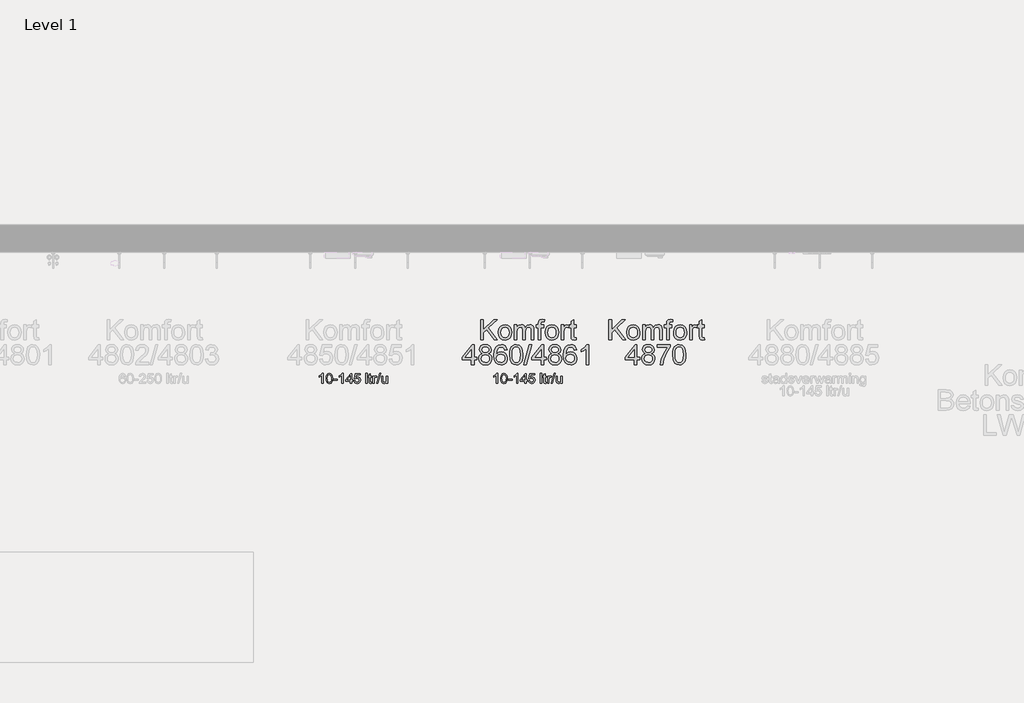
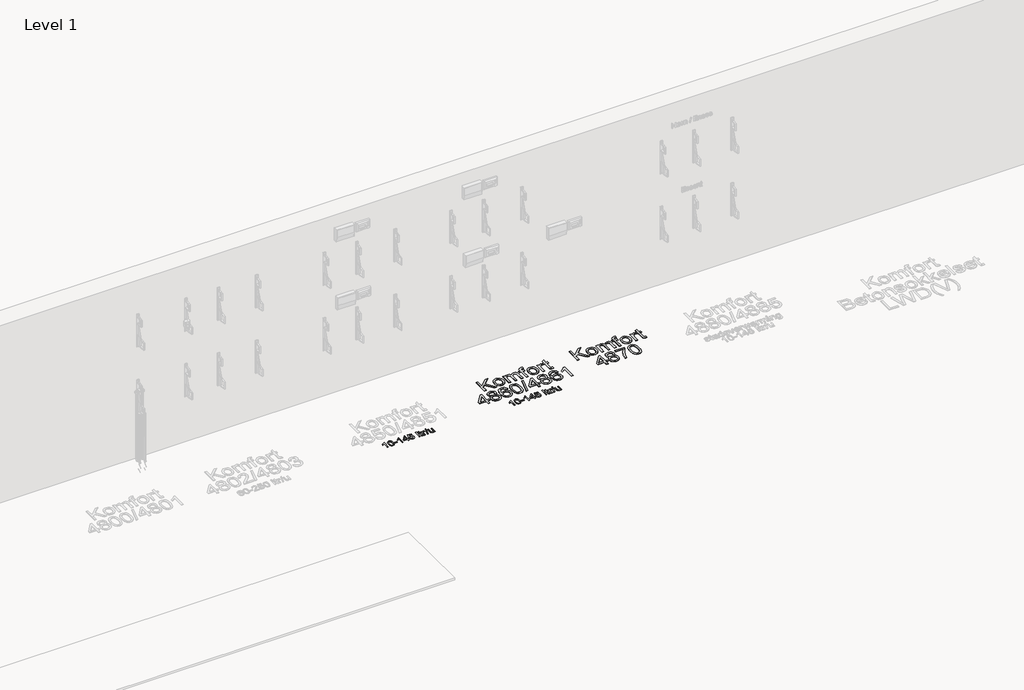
# One storey, part 24 of 34: 4 proxies.
"""IFC4 building model written with IfcOpenShell, lengths in millimetres."""

import ifcopenshell
import ifcopenshell.guid

model = None  # the IFC model being written
_history = None  # IfcOwnerHistory: only IFC2X3 demands one
_inside = {}  # id of a spatial element -> (the spatial element, [elements in it])
_under = {}  # id of a project, library or spatial element -> (it, [spatial elements below it])
_declared = {}  # id of a project -> (the project, [libraries it declares])
_typed = {}  # id of a type object -> (the type object, [elements of that type])
_made_of = {}  # id of a material, layer set ... -> (it, [elements and type objects made of it])


def new_model(schema):
    """Start an empty IFC model of exactly this schema.

    Asked for "IFC4X3", IfcOpenShell would pick the latest addendum, in which some entities
    have other attributes; the version numbers below select the first issue.
    IFC2X3 requires an IfcOwnerHistory on every rooted entity: one is made here for all.
    """
    global model, _history
    if schema == "IFC4X3":
        model = ifcopenshell.file(schema_version=(4, 3, 0, 0))
    else:
        model = ifcopenshell.file(schema=schema)
    _inside.clear()
    _under.clear()
    _declared.clear()
    _typed.clear()
    _made_of.clear()
    _history = None
    if model.schema == "IFC2X3":
        org = make("IfcOrganization", Name="unknown")
        user = make(
            "IfcPersonAndOrganization",
            ThePerson=make("IfcPerson", FamilyName="unknown"),
            TheOrganization=org,
        )
        app = make(
            "IfcApplication",
            ApplicationDeveloper=org,
            Version="unknown",
            ApplicationFullName="unknown",
            ApplicationIdentifier="unknown",
        )
        _history = make(
            "IfcOwnerHistory",
            OwningUser=user,
            OwningApplication=app,
            ChangeAction="ADDED",
            CreationDate=0,
        )
    return model


def make(cls, **values):
    """One entity of the class cls with the attributes given. An attribute that is None is left unset."""
    return model.create_entity(
        cls, **{name: value for name, value in values.items() if value is not None}
    )


def rooted(cls, **values):
    """An entity with a GlobalId (a new one), such as an element, a storey or a relation."""
    return make(cls, GlobalId=ifcopenshell.guid.new(), OwnerHistory=_history, **values)


def si_unit(unit_type, name, prefix=None):
    """IfcSIUnit, for example si_unit("LENGTHUNIT", "METRE", prefix="MILLI")."""
    return make("IfcSIUnit", UnitType=unit_type, Prefix=prefix, Name=name)


def assignment(units):
    """IfcUnitAssignment: the units of a project."""
    return None if units is None else make("IfcUnitAssignment", Units=units)


def point(xyz):
    """IfcCartesianPoint."""
    return None if xyz is None else make("IfcCartesianPoint", Coordinates=xyz)


def direction(xyz):
    """IfcDirection."""
    return None if xyz is None else make("IfcDirection", DirectionRatios=xyz)


def frame(location, z_axis=None, x_axis=None):
    """IfcAxis2Placement3D, a coordinate frame: its origin and axes. An axis left out is left unset."""
    return make(
        "IfcAxis2Placement3D",
        Location=point(location),
        Axis=direction(z_axis),
        RefDirection=direction(x_axis),
    )


def origin():
    """The frame at (0, 0, 0) with its axes left unset."""
    return frame((0.0, 0.0, 0.0))


def origin_with_axes():
    """The frame at (0, 0, 0) with the z axis (0, 0, 1) and the x axis (1, 0, 0) written out."""
    return frame((0.0, 0.0, 0.0), z_axis=(0.0, 0.0, 1.0), x_axis=(1.0, 0.0, 0.0))


def place(relative_to, where):
    """IfcLocalPlacement: puts the frame where relative to a parent placement (None: the world)."""
    return make(
        "IfcLocalPlacement", PlacementRelTo=relative_to, RelativePlacement=where
    )


def context(
    kind, dimensions, precision=None, world=None, true_north=None, identifier=None
):
    """IfcGeometricRepresentationContext, for example the 3D "Model" context."""
    return make(
        "IfcGeometricRepresentationContext",
        ContextIdentifier=identifier,
        ContextType=kind,
        CoordinateSpaceDimension=dimensions,
        Precision=precision,
        WorldCoordinateSystem=world,
        TrueNorth=true_north,
    )


def project(units=None, contexts=None):
    """IfcProject with its units and contexts."""
    return rooted(
        "IfcProject",
        Name="project",
        RepresentationContexts=contexts,
        UnitsInContext=assignment(units),
    )


def spatial(cls, under=None, at=None, **own):
    """A site, building, storey or space (cls), placed at a placement, below another one or the project."""
    s = rooted(cls, ObjectPlacement=at, **own)
    if under is not None:
        _under.setdefault(under.id(), (under, []))[1].append(s)
    return s


def polyline(points):
    """IfcPolyline through the points."""
    return make("IfcPolyline", Points=[point(p) for p in points])


def outline(outer, holes=None, kind="AREA"):
    """IfcArbitraryClosedProfileDef: a profile drawn as a closed curve; with holes, ...WithVoids."""
    if holes is None:
        return make("IfcArbitraryClosedProfileDef", ProfileType=kind, OuterCurve=outer)
    return make(
        "IfcArbitraryProfileDefWithVoids",
        ProfileType=kind,
        OuterCurve=outer,
        InnerCurves=holes,
    )


def extrude(swept, where, along, depth):
    """IfcExtrudedAreaSolid: the profile swept, set in the frame where, extruded along a direction by depth."""
    return make(
        "IfcExtrudedAreaSolid",
        SweptArea=swept,
        Position=where,
        ExtrudedDirection=direction(along),
        Depth=depth,
    )


def shape(context_of_items, identifier, shape_type, items):
    """IfcShapeRepresentation: the items that make up one representation, for example the "Body"."""
    return make(
        "IfcShapeRepresentation",
        ContextOfItems=context_of_items,
        RepresentationIdentifier=identifier,
        RepresentationType=shape_type,
        Items=items,
    )


def made_of(thing, what):
    """Note that an element or type object is made of a material, layer set ...; save() writes the relation."""
    if what is not None:
        _made_of.setdefault(what.id(), (what, []))[1].append(thing)
    return thing


def element(
    cls,
    number,
    at=None,
    inside=None,
    cuts=None,
    type_object=None,
    material=None,
    context=None,
    identifier="Body",
    shape_type=None,
    held_by="IfcProductDefinitionShape",
    body=None,
    shapes=None,
    **own,
):
    """One element of the class cls, such as IfcWall. Its Tag is "e" and its number.

    at: its placement. inside: the storey or other place that contains it. cuts: it is an
    opening in that element (IfcRelVoidsElement). A single representation is given by context,
    identifier, shape_type and body (its items); several are given by shapes. held_by: the class
    of the entity that holds the representations. save() writes the other relations.
    """
    e = rooted(cls, Tag="e%d" % number, ObjectPlacement=at, **own)
    if body is not None:
        shapes = [shape(context, identifier, shape_type, body)]
    if shapes is not None:
        e.Representation = make(held_by, Representations=shapes)
    if inside is not None:
        _inside.setdefault(inside.id(), (inside, []))[1].append(e)
    if cuts is not None:
        rooted(
            "IfcRelVoidsElement", RelatingBuildingElement=cuts, RelatedOpeningElement=e
        )
    if type_object is not None:
        _typed.setdefault(type_object.id(), (type_object, []))[1].append(e)
    return made_of(e, material)


def aggregate(whole, parts):
    """IfcRelAggregates: a whole, such as a stair, and the parts it consists of."""
    return rooted("IfcRelAggregates", RelatingObject=whole, RelatedObjects=parts)


def save(model, path):
    """Write the relations noted so far, then the file.

    IfcRelAggregates (storeys below a building ...), IfcRelContainedInSpatialStructure (elements
    in a storey), IfcRelDefinesByType, IfcRelAssociatesMaterial and IfcRelDeclares: one each for
    every whole, place, type object, material and project.
    """
    for whole, parts in _under.values():
        aggregate(whole, parts)
    for where, things in _inside.values():
        rooted(
            "IfcRelContainedInSpatialStructure",
            RelatedElements=things,
            RelatingStructure=where,
        )
    for kind, things in _typed.values():
        rooted("IfcRelDefinesByType", RelatedObjects=things, RelatingType=kind)
    for what, things in _made_of.values():
        rooted("IfcRelAssociatesMaterial", RelatedObjects=things, RelatingMaterial=what)
    for by, libraries in _declared.values():
        rooted("IfcRelDeclares", RelatingContext=by, RelatedDefinitions=libraries)
    model.write(path)


model = new_model("IFC4")

# Units and contexts
model_context = context("Model", 3, world=origin())
ifc_project = project(units=[si_unit("LENGTHUNIT", "METRE", prefix="MILLI")], contexts=[model_context])

# Site, building, storey
site = spatial("IfcSite", under=ifc_project)
building = spatial("IfcBuilding", under=site)
storey = spatial("IfcBuildingStorey", under=building, Name="Level 1", Elevation=0.0)

# Proxies
placement = place(None, origin())
element("IfcBuildingElementProxy", 1, Name="DN", ObjectType="DN", at=placement, inside=storey, context=model_context, shape_type="SweptSolid", body=[
    extrude(outline(polyline([(-7842.5642174, 6628.0579707), (-7851.7949866, 6628.0579707), (-7851.7949866, 6685.6060476), (-7860.538977, 6679.3770812), (-7870.2565251, 6674.7166245), (-7870.2565251, 6683.442586), (-7856.7258761, 6692.0784034), (-7848.5137366, 6701.9041245), (-7842.5642174, 6701.9041245), (-7842.5642174, 6628.0579707)])), origin_with_axes(), (0.0, 0.0, 1.0), 5.0),
    extrude(outline(polyline([(-7820.6411405, 6664.3860957), (-7817.9277991, 6685.6330909), (-7809.8689049, 6697.8836918), (-7796.4103712, 6701.9041245), (-7785.6291212, 6699.5243168), (-7778.1832078, 6692.6643409), (-7773.8562847, 6681.7388601), (-7772.179602, 6664.3860957), (-7774.8659001, 6643.2292447), (-7782.8977511, 6630.9516005), (-7796.4103712, 6626.9041245), (-7806.0017174, 6628.661937), (-7813.2853712, 6633.9353745), (-7818.8021982, 6646.4248577), (-7820.6411405, 6664.3860957)]), holes=[polyline([(-7811.4103712, 6664.4041245), (-7810.3286405, 6649.8841425), (-7807.0834482, 6641.4804466), (-7796.4103712, 6636.1348937), (-7785.7372943, 6641.4984755), (-7782.492102, 6649.9066786), (-7781.4103712, 6664.4041245), (-7785.5930636, 6687.0663841), (-7796.5185443, 6692.6733553), (-7806.9392174, 6687.7334514), (-7810.2925828, 6678.7370572), (-7811.4103712, 6664.4041245)])]), origin_with_axes(), (0.0, 0.0, 1.0), 5.0),
    extrude(outline(polyline([(-7766.4103712, 6649.9810476), (-7766.4103712, 6659.2118168), (-7737.5642174, 6659.2118168), (-7737.5642174, 6649.9810476), (-7766.4103712, 6649.9810476)])), origin_with_axes(), (0.0, 0.0, 1.0), 5.0),
    extrude(outline(polyline([(-7694.8719097, 6628.0579707), (-7704.1026789, 6628.0579707), (-7704.1026789, 6685.6060476), (-7712.8466693, 6679.3770812), (-7722.5642174, 6674.7166245), (-7722.5642174, 6683.442586), (-7709.0335684, 6692.0784034), (-7700.8214289, 6701.9041245), (-7694.8719097, 6701.9041245), (-7694.8719097, 6628.0579707)])), origin_with_axes(), (0.0, 0.0, 1.0), 5.0),
    extrude(outline(polyline([(-7642.9488328, 6628.0579707), (-7642.9488328, 6645.365663), (-7676.4103712, 6645.365663), (-7676.4103712, 6654.5964322), (-7640.6411405, 6700.7502784), (-7633.7180636, 6700.7502784), (-7633.7180636, 6654.5964322), (-7624.4872943, 6654.5964322), (-7624.4872943, 6645.365663), (-7633.7180636, 6645.365663), (-7633.7180636, 6628.0579707), (-7642.9488328, 6628.0579707)]), holes=[polyline([(-7642.9488328, 6654.5964322), (-7642.9488328, 6683.1180668), (-7665.0521982, 6654.5964322), (-7642.9488328, 6654.5964322)])]), origin_with_axes(), (0.0, 0.0, 1.0), 5.0),
    extrude(outline(polyline([(-7616.4103712, 6647.6733553), (-7607.179602, 6648.8272014), (-7602.5281597, 6639.3169851), (-7592.882727, 6636.1348937), (-7581.3082078, 6640.5609755), (-7577.179602, 6652.3067687), (-7581.0467895, 6663.2683072), (-7592.7384962, 6667.2887399), (-7600.8424626, 6665.6841726), (-7606.0257559, 6661.5195091), (-7615.2565251, 6662.6733553), (-7607.179602, 6700.7502784), (-7571.4103712, 6700.7502784), (-7571.4103712, 6691.5195091), (-7599.7156597, 6691.5195091), (-7603.663977, 6671.1829707), (-7590.1603712, 6676.5195091), (-7581.535822, 6674.8653625), (-7574.3761164, 6669.9029226), (-7569.5556537, 6662.3398216), (-7567.9488328, 6652.8836918), (-7573.7360924, 6635.756288), (-7582.0473905, 6629.1171654), (-7592.9187847, 6626.9041245), (-7601.9850407, 6628.3261498), (-7609.2078472, 6632.5922255), (-7614.1590191, 6639.2065584), (-7616.4103712, 6647.6733553)])), origin_with_axes(), (0.0, 0.0, 1.0), 5.0),
    extrude(outline(polyline([(-7528.7180636, 6628.0579707), (-7528.7180636, 6701.9041245), (-7519.4872943, 6701.9041245), (-7519.4872943, 6628.0579707), (-7528.7180636, 6628.0579707)])), origin_with_axes(), (0.0, 0.0, 1.0), 5.0),
    extrude(outline(polyline([(-7486.0257559, 6635.756288), (-7484.8719097, 6627.787538), (-7491.7769578, 6626.9041245), (-7499.5113328, 6628.4365764), (-7503.3695059, 6632.4570091), (-7504.4872943, 6642.9317687), (-7504.4872943, 6673.0579707), (-7511.4103712, 6673.0579707), (-7511.4103712, 6682.2887399), (-7504.4872943, 6682.2887399), (-7504.4872943, 6695.4678264), (-7495.2565251, 6700.8945091), (-7495.2565251, 6682.2887399), (-7486.0257559, 6682.2887399), (-7486.0257559, 6673.0579707), (-7495.2565251, 6673.0579707), (-7495.2565251, 6643.2022014), (-7494.7697462, 6638.442586), (-7493.1922222, 6636.7568889), (-7490.0461886, 6636.1348937), (-7486.0257559, 6635.756288)])), origin_with_axes(), (0.0, 0.0, 1.0), 5.0),
    extrude(outline(polyline([(-7476.7949866, 6628.0579707), (-7476.7949866, 6682.2887399), (-7468.7180636, 6682.2887399), (-7468.7180636, 6674.2659034), (-7462.9848905, 6681.6577303), (-7457.2156597, 6683.442586), (-7447.9488328, 6680.5940284), (-7451.0317655, 6672.318788), (-7457.5221501, 6674.2118168), (-7462.7415011, 6672.3909034), (-7466.0678232, 6667.3428264), (-7467.5642174, 6656.5615764), (-7467.5642174, 6628.0579707), (-7476.7949866, 6628.0579707)])), origin_with_axes(), (0.0, 0.0, 1.0), 5.0),
    extrude(outline(polyline([(-7449.1026789, 6628.0579707), (-7428.3334482, 6701.9041245), (-7420.0041212, 6701.9041245), (-7440.773352, 6628.0579707), (-7449.1026789, 6628.0579707)])), origin_with_axes(), (0.0, 0.0, 1.0), 5.0),
    extrude(outline(polyline([(-7378.7180636, 6628.0579707), (-7378.7180636, 6637.3788841), (-7385.9476309, 6629.5228144), (-7395.3767174, 6626.9041245), (-7404.0576068, 6628.7430668), (-7410.0431837, 6633.3584514), (-7412.7925828, 6640.1553264), (-7413.3334482, 6648.7370572), (-7413.3334482, 6682.2887399), (-7404.1026789, 6682.2887399), (-7404.1026789, 6653.0820091), (-7403.5437847, 6643.6709514), (-7399.8929434, 6638.1451101), (-7393.0149386, 6636.1348937), (-7385.3076068, 6638.1901822), (-7380.2144578, 6643.7881389), (-7378.7180636, 6654.0735957), (-7378.7180636, 6682.2887399), (-7369.4872943, 6682.2887399), (-7369.4872943, 6628.0579707), (-7378.7180636, 6628.0579707)])), origin_with_axes(), (0.0, 0.0, 1.0), 5.0),
])
element("IfcBuildingElementProxy", 2, Name="DN", ObjectType="DN", at=placement, inside=storey, context=model_context, shape_type="SweptSolid", body=[
    extrude(outline(polyline([(-6562.5642174, 6628.0579707), (-6571.7949866, 6628.0579707), (-6571.7949866, 6685.6060476), (-6580.538977, 6679.3770812), (-6590.2565251, 6674.7166245), (-6590.2565251, 6683.442586), (-6576.7258761, 6692.0784034), (-6568.5137366, 6701.9041245), (-6562.5642174, 6701.9041245), (-6562.5642174, 6628.0579707)])), origin_with_axes(), (0.0, 0.0, 1.0), 5.0),
    extrude(outline(polyline([(-6540.6411405, 6664.3860957), (-6537.9277991, 6685.6330909), (-6529.8689049, 6697.8836918), (-6516.4103712, 6701.9041245), (-6505.6291212, 6699.5243168), (-6498.1832078, 6692.6643409), (-6493.8562847, 6681.7388601), (-6492.179602, 6664.3860957), (-6494.8659001, 6643.2292447), (-6502.8977511, 6630.9516005), (-6516.4103712, 6626.9041245), (-6526.0017174, 6628.661937), (-6533.2853712, 6633.9353745), (-6538.8021982, 6646.4248577), (-6540.6411405, 6664.3860957)]), holes=[polyline([(-6531.4103712, 6664.4041245), (-6530.3286405, 6649.8841425), (-6527.0834482, 6641.4804466), (-6516.4103712, 6636.1348937), (-6505.7372943, 6641.4984755), (-6502.492102, 6649.9066786), (-6501.4103712, 6664.4041245), (-6505.5930636, 6687.0663841), (-6516.5185443, 6692.6733553), (-6526.9392174, 6687.7334514), (-6530.2925828, 6678.7370572), (-6531.4103712, 6664.4041245)])]), origin_with_axes(), (0.0, 0.0, 1.0), 5.0),
    extrude(outline(polyline([(-6486.4103712, 6649.9810476), (-6486.4103712, 6659.2118168), (-6457.5642174, 6659.2118168), (-6457.5642174, 6649.9810476), (-6486.4103712, 6649.9810476)])), origin_with_axes(), (0.0, 0.0, 1.0), 5.0),
    extrude(outline(polyline([(-6414.8719097, 6628.0579707), (-6424.1026789, 6628.0579707), (-6424.1026789, 6685.6060476), (-6432.8466693, 6679.3770812), (-6442.5642174, 6674.7166245), (-6442.5642174, 6683.442586), (-6429.0335684, 6692.0784034), (-6420.8214289, 6701.9041245), (-6414.8719097, 6701.9041245), (-6414.8719097, 6628.0579707)])), origin_with_axes(), (0.0, 0.0, 1.0), 5.0),
    extrude(outline(polyline([(-6362.9488328, 6628.0579707), (-6362.9488328, 6645.365663), (-6396.4103712, 6645.365663), (-6396.4103712, 6654.5964322), (-6360.6411405, 6700.7502784), (-6353.7180636, 6700.7502784), (-6353.7180636, 6654.5964322), (-6344.4872943, 6654.5964322), (-6344.4872943, 6645.365663), (-6353.7180636, 6645.365663), (-6353.7180636, 6628.0579707), (-6362.9488328, 6628.0579707)]), holes=[polyline([(-6362.9488328, 6654.5964322), (-6362.9488328, 6683.1180668), (-6385.0521982, 6654.5964322), (-6362.9488328, 6654.5964322)])]), origin_with_axes(), (0.0, 0.0, 1.0), 5.0),
    extrude(outline(polyline([(-6336.4103712, 6647.6733553), (-6327.179602, 6648.8272014), (-6322.5281597, 6639.3169851), (-6312.882727, 6636.1348937), (-6301.3082078, 6640.5609755), (-6297.179602, 6652.3067687), (-6301.0467895, 6663.2683072), (-6312.7384962, 6667.2887399), (-6320.8424626, 6665.6841726), (-6326.0257559, 6661.5195091), (-6335.2565251, 6662.6733553), (-6327.179602, 6700.7502784), (-6291.4103712, 6700.7502784), (-6291.4103712, 6691.5195091), (-6319.7156597, 6691.5195091), (-6323.663977, 6671.1829707), (-6310.1603712, 6676.5195091), (-6301.535822, 6674.8653625), (-6294.3761164, 6669.9029226), (-6289.5556537, 6662.3398216), (-6287.9488328, 6652.8836918), (-6293.7360924, 6635.756288), (-6302.0473905, 6629.1171654), (-6312.9187847, 6626.9041245), (-6321.9850407, 6628.3261498), (-6329.2078472, 6632.5922255), (-6334.1590191, 6639.2065584), (-6336.4103712, 6647.6733553)])), origin_with_axes(), (0.0, 0.0, 1.0), 5.0),
    extrude(outline(polyline([(-6248.7180636, 6628.0579707), (-6248.7180636, 6701.9041245), (-6239.4872943, 6701.9041245), (-6239.4872943, 6628.0579707), (-6248.7180636, 6628.0579707)])), origin_with_axes(), (0.0, 0.0, 1.0), 5.0),
    extrude(outline(polyline([(-6206.0257559, 6635.756288), (-6204.8719097, 6627.787538), (-6211.7769578, 6626.9041245), (-6219.5113328, 6628.4365764), (-6223.3695059, 6632.4570091), (-6224.4872943, 6642.9317687), (-6224.4872943, 6673.0579707), (-6231.4103712, 6673.0579707), (-6231.4103712, 6682.2887399), (-6224.4872943, 6682.2887399), (-6224.4872943, 6695.4678264), (-6215.2565251, 6700.8945091), (-6215.2565251, 6682.2887399), (-6206.0257559, 6682.2887399), (-6206.0257559, 6673.0579707), (-6215.2565251, 6673.0579707), (-6215.2565251, 6643.2022014), (-6214.7697462, 6638.442586), (-6213.1922222, 6636.7568889), (-6210.0461886, 6636.1348937), (-6206.0257559, 6635.756288)])), origin_with_axes(), (0.0, 0.0, 1.0), 5.0),
    extrude(outline(polyline([(-6196.7949866, 6628.0579707), (-6196.7949866, 6682.2887399), (-6188.7180636, 6682.2887399), (-6188.7180636, 6674.2659034), (-6182.9848905, 6681.6577303), (-6177.2156597, 6683.442586), (-6167.9488328, 6680.5940284), (-6171.0317655, 6672.318788), (-6177.5221501, 6674.2118168), (-6182.7415011, 6672.3909034), (-6186.0678232, 6667.3428264), (-6187.5642174, 6656.5615764), (-6187.5642174, 6628.0579707), (-6196.7949866, 6628.0579707)])), origin_with_axes(), (0.0, 0.0, 1.0), 5.0),
    extrude(outline(polyline([(-6169.1026789, 6628.0579707), (-6148.3334482, 6701.9041245), (-6140.0041212, 6701.9041245), (-6160.773352, 6628.0579707), (-6169.1026789, 6628.0579707)])), origin_with_axes(), (0.0, 0.0, 1.0), 5.0),
    extrude(outline(polyline([(-6098.7180636, 6628.0579707), (-6098.7180636, 6637.3788841), (-6105.9476309, 6629.5228144), (-6115.3767174, 6626.9041245), (-6124.0576068, 6628.7430668), (-6130.0431837, 6633.3584514), (-6132.7925828, 6640.1553264), (-6133.3334482, 6648.7370572), (-6133.3334482, 6682.2887399), (-6124.1026789, 6682.2887399), (-6124.1026789, 6653.0820091), (-6123.5437847, 6643.6709514), (-6119.8929434, 6638.1451101), (-6113.0149386, 6636.1348937), (-6105.3076068, 6638.1901822), (-6100.2144578, 6643.7881389), (-6098.7180636, 6654.0735957), (-6098.7180636, 6682.2887399), (-6089.4872943, 6682.2887399), (-6089.4872943, 6628.0579707), (-6098.7180636, 6628.0579707)])), origin_with_axes(), (0.0, 0.0, 1.0), 5.0),
])
element("IfcBuildingElementProxy", 3, Name="type", ObjectType="type", at=placement, inside=storey, context=model_context, shape_type="SweptSolid", body=[
    extrude(outline(polyline([(-6686.6026789, 6948.0579707), (-6686.6026789, 7095.7502784), (-6668.1411405, 7095.7502784), (-6668.1411405, 7023.4546053), (-6592.4199866, 7095.7502784), (-6566.6026789, 7095.7502784), (-6630.1723905, 7035.0291245), (-6564.2949866, 6948.0579707), (-6586.867102, 6948.0579707), (-6643.2613328, 7022.553163), (-6668.1411405, 6998.8272014), (-6668.1411405, 6948.0579707), (-6686.6026789, 6948.0579707)])), origin_with_axes(), (0.0, 0.0, 1.0), 5.0),
    extrude(outline(polyline([(-6557.3719097, 7002.2887399), (-6553.3785203, 7028.4395812), (-6541.398352, 7046.8199899), (-6526.5966693, 7055.8253985), (-6508.8743136, 7058.8272014), (-6489.4797823, 7055.1718529), (-6473.9884962, 7044.2058072), (-6463.8337487, 7026.794449), (-6460.4488328, 7003.803163), (-6461.945227, 6985.1523216), (-6466.4344097, 6970.9546053), (-6473.7856717, 6960.3220933), (-6483.8683039, 6952.3668649), (-6495.843965, 6947.404425), (-6508.8743136, 6945.7502784), (-6528.5032198, 6949.3921053), (-6543.976477, 6960.317586), (-6554.0230515, 6978.0940284), (-6557.3719097, 7002.2887399)]), holes=[polyline([(-6538.9103712, 7002.3247976), (-6536.773953, 6985.6165644), (-6530.3646982, 6973.7130187), (-6520.7192655, 6966.5871173), (-6508.8743136, 6964.2118168), (-6497.0834482, 6966.6006389), (-6487.4560443, 6973.7671053), (-6481.0467895, 6985.8284034), (-6478.9103712, 7002.9017207), (-6481.0603112, 7019.123175), (-6487.5101309, 7030.864461), (-6497.1510563, 7037.9903625), (-6508.8743136, 7040.365663), (-6520.7192655, 7037.9993769), (-6530.3646982, 7030.9005187), (-6536.773953, 7019.0240163), (-6538.9103712, 7002.3247976)])]), origin_with_axes(), (0.0, 0.0, 1.0), 5.0),
    extrude(outline(polyline([(-6439.679602, 6948.0579707), (-6439.679602, 7056.5195091), (-6421.2180636, 7056.5195091), (-6421.2180636, 7038.6709514), (-6408.5257559, 7053.2923457), (-6390.460852, 7058.8272014), (-6380.1934241, 7057.4164442), (-6371.9632559, 7053.1841726), (-6361.7949866, 7037.3728745), (-6347.3899386, 7053.4636197), (-6329.1988328, 7058.8272014), (-6315.3211285, 7056.5961317), (-6305.0582078, 7049.9029226), (-6298.7165612, 7038.5672856), (-6296.6026789, 7022.4089322), (-6296.6026789, 6948.0579707), (-6315.0642174, 6948.0579707), (-6315.0642174, 7014.4762399), (-6316.7769578, 7029.8909034), (-6322.9788809, 7037.4810476), (-6333.5257559, 7040.365663), (-6343.5272583, 7038.5177062), (-6351.6808039, 7032.973836), (-6357.1029794, 7023.3554466), (-6358.9103712, 7009.2839322), (-6358.9103712, 6948.0579707), (-6377.3719097, 6948.0579707), (-6377.3719097, 7016.5315284), (-6381.6447462, 7034.4161437), (-6387.2832679, 7038.8782832), (-6395.6531597, 7040.365663), (-6409.3190251, 7036.3993168), (-6418.4055636, 7024.7887399), (-6421.2180636, 7002.7574899), (-6421.2180636, 6948.0579707), (-6439.679602, 6948.0579707)])), origin_with_axes(), (0.0, 0.0, 1.0), 5.0),
    extrude(outline(polyline([(-6264.2949866, 6948.0579707), (-6264.2949866, 7038.0579707), (-6280.4488328, 7038.0579707), (-6280.4488328, 7056.5195091), (-6264.2949866, 7056.5195091), (-6264.2949866, 7067.4449899), (-6262.3478712, 7082.8416245), (-6252.9007559, 7093.8392207), (-6234.2949866, 7098.0579707), (-6217.4560443, 7096.0387399), (-6220.1603712, 7078.7310476), (-6230.7973905, 7079.5964322), (-6242.4259962, 7076.5315284), (-6245.8334482, 7065.1012399), (-6245.8334482, 7056.5195091), (-6225.0642174, 7056.5195091), (-6225.0642174, 7038.0579707), (-6245.8334482, 7038.0579707), (-6245.8334482, 6948.0579707), (-6264.2949866, 6948.0579707)])), origin_with_axes(), (0.0, 0.0, 1.0), 5.0),
    extrude(outline(polyline([(-6213.5257559, 7002.2887399), (-6209.5323664, 7028.4395812), (-6197.5521982, 7046.8199899), (-6182.7505155, 7055.8253985), (-6165.0281597, 7058.8272014), (-6145.6336285, 7055.1718529), (-6130.1423424, 7044.2058072), (-6119.9875948, 7026.794449), (-6116.6026789, 7003.803163), (-6118.0990732, 6985.1523216), (-6122.5882559, 6970.9546053), (-6129.9395179, 6960.3220933), (-6140.0221501, 6952.3668649), (-6151.9978112, 6947.404425), (-6165.0281597, 6945.7502784), (-6184.657066, 6949.3921053), (-6200.1303232, 6960.317586), (-6210.1768977, 6978.0940284), (-6213.5257559, 7002.2887399)]), holes=[polyline([(-6195.0642174, 7002.3247976), (-6192.9277991, 6985.6165644), (-6186.5185443, 6973.7130187), (-6176.8731116, 6966.5871173), (-6165.0281597, 6964.2118168), (-6153.2372943, 6966.6006389), (-6143.6098905, 6973.7671053), (-6137.2006357, 6985.8284034), (-6135.0642174, 7002.9017207), (-6137.2141573, 7019.123175), (-6143.663977, 7030.864461), (-6153.3049025, 7037.9903625), (-6165.0281597, 7040.365663), (-6176.8731116, 7037.9993769), (-6186.5185443, 7030.9005187), (-6192.9277991, 7019.0240163), (-6195.0642174, 7002.3247976)])]), origin_with_axes(), (0.0, 0.0, 1.0), 5.0),
    extrude(outline(polyline([(-6095.8334482, 6948.0579707), (-6095.8334482, 7056.5195091), (-6079.679602, 7056.5195091), (-6079.679602, 7040.473836), (-6068.2132559, 7055.2574899), (-6056.6747943, 7058.8272014), (-6038.1411405, 7053.130086), (-6044.3070059, 7036.5796053), (-6057.2877751, 7040.365663), (-6067.726477, 7036.723836), (-6074.3791212, 7026.6276822), (-6077.3719097, 7005.0651822), (-6077.3719097, 6948.0579707), (-6095.8334482, 6948.0579707)])), origin_with_axes(), (0.0, 0.0, 1.0), 5.0),
    extrude(outline(polyline([(-5987.3719097, 6963.4546053), (-5985.0642174, 6947.5171053), (-5998.8743136, 6945.7502784), (-6014.3430636, 6948.8151822), (-6022.0594097, 6956.8560476), (-6024.2949866, 6977.8055668), (-6024.2949866, 7038.0579707), (-6038.1411405, 7038.0579707), (-6038.1411405, 7056.5195091), (-6024.2949866, 7056.5195091), (-6024.2949866, 7082.8776822), (-6005.8334482, 7093.7310476), (-6005.8334482, 7056.5195091), (-5987.3719097, 7056.5195091), (-5987.3719097, 7038.0579707), (-6005.8334482, 7038.0579707), (-6005.8334482, 6978.3464322), (-6004.8598905, 6968.8272014), (-6001.7048424, 6965.4558072), (-5995.4127751, 6964.2118168), (-5987.3719097, 6963.4546053)])), origin_with_axes(), (0.0, 0.0, 1.0), 5.0),
    extrude(outline(polyline([(-6754.679602, 6765.7502784), (-6754.679602, 6800.365663), (-6821.6026789, 6800.365663), (-6821.6026789, 6818.8272014), (-6750.0642174, 6911.1348937), (-6736.2180636, 6911.1348937), (-6736.2180636, 6818.8272014), (-6717.7565251, 6818.8272014), (-6717.7565251, 6800.365663), (-6736.2180636, 6800.365663), (-6736.2180636, 6765.7502784), (-6754.679602, 6765.7502784)]), holes=[polyline([(-6754.679602, 6818.8272014), (-6754.679602, 6875.8704707), (-6798.8863328, 6818.8272014), (-6754.679602, 6818.8272014)])]), origin_with_axes(), (0.0, 0.0, 1.0), 5.0),
    extrude(outline(polyline([(-6674.7036405, 6847.0964322), (-6691.5245539, 6858.5627784), (-6696.9872943, 6876.411336), (-6694.0125347, 6890.8434274), (-6685.0882559, 6902.7695091), (-6671.2150587, 6910.7743168), (-6653.3935443, 6913.442586), (-6635.4638568, 6910.7112159), (-6621.4103712, 6902.5171053), (-6612.3238328, 6890.4017207), (-6609.2949866, 6875.9065284), (-6614.6856116, 6858.5086918), (-6631.0377751, 6847.0964322), (-6619.6750948, 6841.2415644), (-6611.4043616, 6832.6192687), (-6606.3607919, 6821.6442086), (-6604.679602, 6808.7310476), (-6608.0149386, 6791.0808072), (-6618.0209482, 6776.4954707), (-6633.4716693, 6766.7058072), (-6653.1411405, 6763.442586), (-6672.8106116, 6766.7193288), (-6688.2613328, 6776.5495572), (-6698.2673424, 6791.2746173), (-6701.6026789, 6809.2358553), (-6699.8538809, 6822.6493168), (-6694.6074866, 6833.6829707), (-6686.1339289, 6841.958211), (-6674.7036405, 6847.0964322)]), holes=[polyline([(-6678.5257559, 6875.8704707), (-6676.8896381, 6867.8115764), (-6671.9812847, 6861.3752784), (-6663.9449265, 6857.1565284), (-6652.9247943, 6855.7502784), (-6642.1615732, 6857.1475139), (-6634.2469097, 6861.3392207), (-6629.3791212, 6867.5591726), (-6627.7565251, 6875.0411437), (-6629.4332078, 6882.8070692), (-6634.4632559, 6889.2298457), (-6642.4860924, 6893.5432471), (-6653.1411405, 6894.9810476), (-6663.8637967, 6893.5747976), (-6671.8731116, 6889.3560476), (-6676.8625948, 6883.1721534), (-6678.5257559, 6875.8704707)]), polyline([(-6683.1411405, 6809.8848937), (-6680.0582078, 6795.9846534), (-6669.1507559, 6785.5820091), (-6652.9969097, 6781.9041245), (-6640.4308039, 6783.8377183), (-6631.0017174, 6789.6384995), (-6625.1062847, 6798.4230548), (-6623.1411405, 6809.3079707), (-6625.1693857, 6820.3776822), (-6631.2541212, 6829.3560476), (-6640.8995539, 6835.3055668), (-6653.6098905, 6837.2887399), (-6666.000215, 6835.3326101), (-6675.3346501, 6829.4642207), (-6681.1895179, 6820.6571293), (-6683.1411405, 6809.8848937)])]), origin_with_axes(), (0.0, 0.0, 1.0), 5.0),
    extrude(outline(polyline([(-6493.9103712, 6874.2118168), (-6512.3719097, 6871.9041245), (-6519.367102, 6887.3007591), (-6527.7415011, 6893.0609755), (-6537.8646982, 6894.9810476), (-6554.523352, 6890.5098937), (-6567.1255155, 6873.725038), (-6570.9521381, 6859.9735356), (-6572.3719097, 6840.8223937), (-6556.0918616, 6855.551961), (-6535.9175828, 6860.365663), (-6518.8622943, 6857.0753985), (-6504.5473905, 6847.2046053), (-6494.8388568, 6832.1234755), (-6491.6026789, 6813.2022014), (-6493.1261164, 6799.98255), (-6497.6964289, 6787.7274418), (-6504.9350107, 6777.333812), (-6514.4632559, 6769.6985957), (-6525.8484722, 6765.0065885), (-6538.6579674, 6763.442586), (-6559.6029794, 6767.5892207), (-6576.2841693, 6780.0291245), (-6587.1961285, 6801.9882591), (-6590.8334482, 6834.692586), (-6586.7949866, 6871.4624178), (-6574.679602, 6896.6036437), (-6558.1381357, 6909.2328505), (-6536.710852, 6913.442586), (-6520.5119337, 6910.8374178), (-6507.5401789, 6903.021913), (-6498.4536405, 6890.6090524), (-6493.9103712, 6874.2118168)]), holes=[polyline([(-6572.3719097, 6813.490663), (-6568.0990732, 6797.4990764), (-6556.7409001, 6785.8884995), (-6540.1002751, 6781.9041245), (-6527.9172823, 6783.9684274), (-6518.3394578, 6790.161336), (-6512.1330275, 6799.896913), (-6510.0642174, 6812.5892207), (-6512.1059842, 6824.7722135), (-6518.2312847, 6834.0615764), (-6527.9713688, 6839.9434875), (-6540.8574866, 6841.9041245), (-6553.0224506, 6839.9434875), (-6563.195227, 6834.0615764), (-6570.077739, 6824.997574), (-6572.3719097, 6813.490663)])]), origin_with_axes(), (0.0, 0.0, 1.0), 5.0),
    extrude(outline(polyline([(-6475.4488328, 6838.4065284), (-6474.0921621, 6862.0468529), (-6470.0221501, 6880.9005187), (-6463.2793616, 6895.2559875), (-6453.9043616, 6905.4017207), (-6441.8295419, 6911.4323697), (-6426.9872943, 6913.442586), (-6405.4247943, 6908.6829707), (-6390.5329674, 6894.9630187), (-6381.8791212, 6873.1120572), (-6378.5257559, 6838.4065284), (-6379.8689049, 6814.9014202), (-6383.898352, 6796.0928264), (-6390.6005756, 6781.723836), (-6399.9620539, 6771.537538), (-6412.0639169, 6765.466324), (-6426.9872943, 6763.442586), (-6446.1699866, 6766.958211), (-6460.7372943, 6777.505086), (-6471.7709482, 6802.4840524), (-6475.4488328, 6838.4065284)]), holes=[polyline([(-6456.9872943, 6838.442586), (-6454.8238328, 6809.4026221), (-6448.3334482, 6792.5952303), (-6438.6699866, 6784.576901), (-6426.9872943, 6781.9041245), (-6415.304602, 6784.5859154), (-6405.6411405, 6792.631288), (-6399.1507559, 6809.4476942), (-6396.9872943, 6838.442586), (-6399.0786405, 6866.8290043), (-6405.3526789, 6883.7671053), (-6414.9981116, 6892.177562), (-6427.2036405, 6894.9810476), (-6438.7601309, 6892.5110957), (-6448.0449866, 6885.1012399), (-6454.7517174, 6867.1084514), (-6456.9872943, 6838.442586)])]), origin_with_axes(), (0.0, 0.0, 1.0), 5.0),
    extrude(outline(polyline([(-6371.6026789, 6765.7502784), (-6330.0642174, 6913.442586), (-6313.4055636, 6913.442586), (-6354.9440251, 6765.7502784), (-6371.6026789, 6765.7502784)])), origin_with_axes(), (0.0, 0.0, 1.0), 5.0),
    extrude(outline(polyline([(-6244.679602, 6765.7502784), (-6244.679602, 6800.365663), (-6311.6026789, 6800.365663), (-6311.6026789, 6818.8272014), (-6240.0642174, 6911.1348937), (-6226.2180636, 6911.1348937), (-6226.2180636, 6818.8272014), (-6207.7565251, 6818.8272014), (-6207.7565251, 6800.365663), (-6226.2180636, 6800.365663), (-6226.2180636, 6765.7502784), (-6244.679602, 6765.7502784)]), holes=[polyline([(-6244.679602, 6818.8272014), (-6244.679602, 6875.8704707), (-6288.8863328, 6818.8272014), (-6244.679602, 6818.8272014)])]), origin_with_axes(), (0.0, 0.0, 1.0), 5.0),
    extrude(outline(polyline([(-6164.7036405, 6847.0964322), (-6181.5245539, 6858.5627784), (-6186.9872943, 6876.411336), (-6184.0125347, 6890.8434274), (-6175.0882559, 6902.7695091), (-6161.2150587, 6910.7743168), (-6143.3935443, 6913.442586), (-6125.4638568, 6910.7112159), (-6111.4103712, 6902.5171053), (-6102.3238328, 6890.4017207), (-6099.2949866, 6875.9065284), (-6104.6856116, 6858.5086918), (-6121.0377751, 6847.0964322), (-6109.6750948, 6841.2415644), (-6101.4043616, 6832.6192687), (-6096.3607919, 6821.6442086), (-6094.679602, 6808.7310476), (-6098.0149386, 6791.0808072), (-6108.0209482, 6776.4954707), (-6123.4716693, 6766.7058072), (-6143.1411405, 6763.442586), (-6162.8106116, 6766.7193288), (-6178.2613328, 6776.5495572), (-6188.2673424, 6791.2746173), (-6191.6026789, 6809.2358553), (-6189.8538809, 6822.6493168), (-6184.6074866, 6833.6829707), (-6176.1339289, 6841.958211), (-6164.7036405, 6847.0964322)]), holes=[polyline([(-6168.5257559, 6875.8704707), (-6166.8896381, 6867.8115764), (-6161.9812847, 6861.3752784), (-6153.9449265, 6857.1565284), (-6142.9247943, 6855.7502784), (-6132.1615732, 6857.1475139), (-6124.2469097, 6861.3392207), (-6119.3791212, 6867.5591726), (-6117.7565251, 6875.0411437), (-6119.4332078, 6882.8070692), (-6124.4632559, 6889.2298457), (-6132.4860924, 6893.5432471), (-6143.1411405, 6894.9810476), (-6153.8637967, 6893.5747976), (-6161.8731116, 6889.3560476), (-6166.8625948, 6883.1721534), (-6168.5257559, 6875.8704707)]), polyline([(-6173.1411405, 6809.8848937), (-6170.0582078, 6795.9846534), (-6159.1507559, 6785.5820091), (-6142.9969097, 6781.9041245), (-6130.4308039, 6783.8377183), (-6121.0017174, 6789.6384995), (-6115.1062847, 6798.4230548), (-6113.1411405, 6809.3079707), (-6115.1693857, 6820.3776822), (-6121.2541212, 6829.3560476), (-6130.8995539, 6835.3055668), (-6143.6098905, 6837.2887399), (-6156.000215, 6835.3326101), (-6165.3346501, 6829.4642207), (-6171.1895179, 6820.6571293), (-6173.1411405, 6809.8848937)])]), origin_with_axes(), (0.0, 0.0, 1.0), 5.0),
    extrude(outline(polyline([(-5983.9103712, 6874.2118168), (-6002.3719097, 6871.9041245), (-6009.367102, 6887.3007591), (-6017.7415011, 6893.0609755), (-6027.8646982, 6894.9810476), (-6044.523352, 6890.5098937), (-6057.1255155, 6873.725038), (-6060.9521381, 6859.9735356), (-6062.3719097, 6840.8223937), (-6046.0918616, 6855.551961), (-6025.9175828, 6860.365663), (-6008.8622943, 6857.0753985), (-5994.5473905, 6847.2046053), (-5984.8388568, 6832.1234755), (-5981.6026789, 6813.2022014), (-5983.1261164, 6799.98255), (-5987.6964289, 6787.7274418), (-5994.9350107, 6777.333812), (-6004.4632559, 6769.6985957), (-6015.8484722, 6765.0065885), (-6028.6579674, 6763.442586), (-6049.6029794, 6767.5892207), (-6066.2841693, 6780.0291245), (-6077.1961285, 6801.9882591), (-6080.8334482, 6834.692586), (-6076.7949866, 6871.4624178), (-6064.679602, 6896.6036437), (-6048.1381357, 6909.2328505), (-6026.710852, 6913.442586), (-6010.5119337, 6910.8374178), (-5997.5401789, 6903.021913), (-5988.4536405, 6890.6090524), (-5983.9103712, 6874.2118168)]), holes=[polyline([(-6062.3719097, 6813.490663), (-6058.0990732, 6797.4990764), (-6046.7409001, 6785.8884995), (-6030.1002751, 6781.9041245), (-6017.9172823, 6783.9684274), (-6008.3394578, 6790.161336), (-6002.1330275, 6799.896913), (-6000.0642174, 6812.5892207), (-6002.1059842, 6824.7722135), (-6008.2312847, 6834.0615764), (-6017.9713688, 6839.9434875), (-6030.8574866, 6841.9041245), (-6043.0224506, 6839.9434875), (-6053.195227, 6834.0615764), (-6060.077739, 6824.997574), (-6062.3719097, 6813.490663)])]), origin_with_axes(), (0.0, 0.0, 1.0), 5.0),
    extrude(outline(polyline([(-5896.2180636, 6765.7502784), (-5914.679602, 6765.7502784), (-5914.679602, 6880.8464322), (-5932.1675828, 6868.3884995), (-5951.6026789, 6859.067586), (-5951.6026789, 6876.5195091), (-5924.5413809, 6893.7911437), (-5908.117102, 6913.442586), (-5896.2180636, 6913.442586), (-5896.2180636, 6765.7502784)])), origin_with_axes(), (0.0, 0.0, 1.0), 5.0),
])
element("IfcBuildingElementProxy", 4, Name="type", ObjectType="type", at=placement, inside=storey, context=model_context, shape_type="SweptSolid", body=[
    extrude(outline(polyline([(-5746.6026789, 6948.0579707), (-5746.6026789, 7095.7502784), (-5728.1411405, 7095.7502784), (-5728.1411405, 7023.4546053), (-5652.4199866, 7095.7502784), (-5626.6026789, 7095.7502784), (-5690.1723905, 7035.0291245), (-5624.2949866, 6948.0579707), (-5646.867102, 6948.0579707), (-5703.2613328, 7022.553163), (-5728.1411405, 6998.8272014), (-5728.1411405, 6948.0579707), (-5746.6026789, 6948.0579707)])), origin_with_axes(), (0.0, 0.0, 1.0), 5.0),
    extrude(outline(polyline([(-5617.3719097, 7002.2887399), (-5613.3785203, 7028.4395812), (-5601.398352, 7046.8199899), (-5586.5966693, 7055.8253985), (-5568.8743136, 7058.8272014), (-5549.4797823, 7055.1718529), (-5533.9884962, 7044.2058072), (-5523.8337487, 7026.794449), (-5520.4488328, 7003.803163), (-5521.945227, 6985.1523216), (-5526.4344097, 6970.9546053), (-5533.7856717, 6960.3220933), (-5543.8683039, 6952.3668649), (-5555.843965, 6947.404425), (-5568.8743136, 6945.7502784), (-5588.5032198, 6949.3921053), (-5603.976477, 6960.317586), (-5614.0230515, 6978.0940284), (-5617.3719097, 7002.2887399)]), holes=[polyline([(-5598.9103712, 7002.3247976), (-5596.773953, 6985.6165644), (-5590.3646982, 6973.7130187), (-5580.7192655, 6966.5871173), (-5568.8743136, 6964.2118168), (-5557.0834482, 6966.6006389), (-5547.4560443, 6973.7671053), (-5541.0467895, 6985.8284034), (-5538.9103712, 7002.9017207), (-5541.0603112, 7019.123175), (-5547.5101309, 7030.864461), (-5557.1510563, 7037.9903625), (-5568.8743136, 7040.365663), (-5580.7192655, 7037.9993769), (-5590.3646982, 7030.9005187), (-5596.773953, 7019.0240163), (-5598.9103712, 7002.3247976)])]), origin_with_axes(), (0.0, 0.0, 1.0), 5.0),
    extrude(outline(polyline([(-5499.679602, 6948.0579707), (-5499.679602, 7056.5195091), (-5481.2180636, 7056.5195091), (-5481.2180636, 7038.6709514), (-5468.5257559, 7053.2923457), (-5450.460852, 7058.8272014), (-5440.1934241, 7057.4164442), (-5431.9632559, 7053.1841726), (-5421.7949866, 7037.3728745), (-5407.3899386, 7053.4636197), (-5389.1988328, 7058.8272014), (-5375.3211285, 7056.5961317), (-5365.0582078, 7049.9029226), (-5358.7165612, 7038.5672856), (-5356.6026789, 7022.4089322), (-5356.6026789, 6948.0579707), (-5375.0642174, 6948.0579707), (-5375.0642174, 7014.4762399), (-5376.7769578, 7029.8909034), (-5382.9788809, 7037.4810476), (-5393.5257559, 7040.365663), (-5403.5272583, 7038.5177062), (-5411.6808039, 7032.973836), (-5417.1029794, 7023.3554466), (-5418.9103712, 7009.2839322), (-5418.9103712, 6948.0579707), (-5437.3719097, 6948.0579707), (-5437.3719097, 7016.5315284), (-5441.6447462, 7034.4161437), (-5447.2832679, 7038.8782832), (-5455.6531597, 7040.365663), (-5469.3190251, 7036.3993168), (-5478.4055636, 7024.7887399), (-5481.2180636, 7002.7574899), (-5481.2180636, 6948.0579707), (-5499.679602, 6948.0579707)])), origin_with_axes(), (0.0, 0.0, 1.0), 5.0),
    extrude(outline(polyline([(-5324.2949866, 6948.0579707), (-5324.2949866, 7038.0579707), (-5340.4488328, 7038.0579707), (-5340.4488328, 7056.5195091), (-5324.2949866, 7056.5195091), (-5324.2949866, 7067.4449899), (-5322.3478712, 7082.8416245), (-5312.9007559, 7093.8392207), (-5294.2949866, 7098.0579707), (-5277.4560443, 7096.0387399), (-5280.1603712, 7078.7310476), (-5290.7973905, 7079.5964322), (-5302.4259962, 7076.5315284), (-5305.8334482, 7065.1012399), (-5305.8334482, 7056.5195091), (-5285.0642174, 7056.5195091), (-5285.0642174, 7038.0579707), (-5305.8334482, 7038.0579707), (-5305.8334482, 6948.0579707), (-5324.2949866, 6948.0579707)])), origin_with_axes(), (0.0, 0.0, 1.0), 5.0),
    extrude(outline(polyline([(-5273.5257559, 7002.2887399), (-5269.5323664, 7028.4395812), (-5257.5521982, 7046.8199899), (-5242.7505155, 7055.8253985), (-5225.0281597, 7058.8272014), (-5205.6336285, 7055.1718529), (-5190.1423424, 7044.2058072), (-5179.9875948, 7026.794449), (-5176.6026789, 7003.803163), (-5178.0990732, 6985.1523216), (-5182.5882559, 6970.9546053), (-5189.9395179, 6960.3220933), (-5200.0221501, 6952.3668649), (-5211.9978112, 6947.404425), (-5225.0281597, 6945.7502784), (-5244.657066, 6949.3921053), (-5260.1303232, 6960.317586), (-5270.1768977, 6978.0940284), (-5273.5257559, 7002.2887399)]), holes=[polyline([(-5255.0642174, 7002.3247976), (-5252.9277991, 6985.6165644), (-5246.5185443, 6973.7130187), (-5236.8731116, 6966.5871173), (-5225.0281597, 6964.2118168), (-5213.2372943, 6966.6006389), (-5203.6098905, 6973.7671053), (-5197.2006357, 6985.8284034), (-5195.0642174, 7002.9017207), (-5197.2141573, 7019.123175), (-5203.663977, 7030.864461), (-5213.3049025, 7037.9903625), (-5225.0281597, 7040.365663), (-5236.8731116, 7037.9993769), (-5246.5185443, 7030.9005187), (-5252.9277991, 7019.0240163), (-5255.0642174, 7002.3247976)])]), origin_with_axes(), (0.0, 0.0, 1.0), 5.0),
    extrude(outline(polyline([(-5155.8334482, 6948.0579707), (-5155.8334482, 7056.5195091), (-5139.679602, 7056.5195091), (-5139.679602, 7040.473836), (-5128.2132559, 7055.2574899), (-5116.6747943, 7058.8272014), (-5098.1411405, 7053.130086), (-5104.3070059, 7036.5796053), (-5117.2877751, 7040.365663), (-5127.726477, 7036.723836), (-5134.3791212, 7026.6276822), (-5137.3719097, 7005.0651822), (-5137.3719097, 6948.0579707), (-5155.8334482, 6948.0579707)])), origin_with_axes(), (0.0, 0.0, 1.0), 5.0),
    extrude(outline(polyline([(-5047.3719097, 6963.4546053), (-5045.0642174, 6947.5171053), (-5058.8743136, 6945.7502784), (-5074.3430636, 6948.8151822), (-5082.0594097, 6956.8560476), (-5084.2949866, 6977.8055668), (-5084.2949866, 7038.0579707), (-5098.1411405, 7038.0579707), (-5098.1411405, 7056.5195091), (-5084.2949866, 7056.5195091), (-5084.2949866, 7082.8776822), (-5065.8334482, 7093.7310476), (-5065.8334482, 7056.5195091), (-5047.3719097, 7056.5195091), (-5047.3719097, 7038.0579707), (-5065.8334482, 7038.0579707), (-5065.8334482, 6978.3464322), (-5064.8598905, 6968.8272014), (-5061.7048424, 6965.4558072), (-5055.4127751, 6964.2118168), (-5047.3719097, 6963.4546053)])), origin_with_axes(), (0.0, 0.0, 1.0), 5.0),
    extrude(outline(polyline([(-5559.679602, 6765.7502784), (-5559.679602, 6800.365663), (-5626.6026789, 6800.365663), (-5626.6026789, 6818.8272014), (-5555.0642174, 6911.1348937), (-5541.2180636, 6911.1348937), (-5541.2180636, 6818.8272014), (-5522.7565251, 6818.8272014), (-5522.7565251, 6800.365663), (-5541.2180636, 6800.365663), (-5541.2180636, 6765.7502784), (-5559.679602, 6765.7502784)]), holes=[polyline([(-5559.679602, 6818.8272014), (-5559.679602, 6875.8704707), (-5603.8863328, 6818.8272014), (-5559.679602, 6818.8272014)])]), origin_with_axes(), (0.0, 0.0, 1.0), 5.0),
    extrude(outline(polyline([(-5479.7036405, 6847.0964322), (-5496.5245539, 6858.5627784), (-5501.9872943, 6876.411336), (-5499.0125347, 6890.8434274), (-5490.0882559, 6902.7695091), (-5476.2150587, 6910.7743168), (-5458.3935443, 6913.442586), (-5440.4638568, 6910.7112159), (-5426.4103712, 6902.5171053), (-5417.3238328, 6890.4017207), (-5414.2949866, 6875.9065284), (-5419.6856116, 6858.5086918), (-5436.0377751, 6847.0964322), (-5424.6750948, 6841.2415644), (-5416.4043616, 6832.6192687), (-5411.3607919, 6821.6442086), (-5409.679602, 6808.7310476), (-5413.0149386, 6791.0808072), (-5423.0209482, 6776.4954707), (-5438.4716693, 6766.7058072), (-5458.1411405, 6763.442586), (-5477.8106116, 6766.7193288), (-5493.2613328, 6776.5495572), (-5503.2673424, 6791.2746173), (-5506.6026789, 6809.2358553), (-5504.8538809, 6822.6493168), (-5499.6074866, 6833.6829707), (-5491.1339289, 6841.958211), (-5479.7036405, 6847.0964322)]), holes=[polyline([(-5483.5257559, 6875.8704707), (-5481.8896381, 6867.8115764), (-5476.9812847, 6861.3752784), (-5468.9449265, 6857.1565284), (-5457.9247943, 6855.7502784), (-5447.1615732, 6857.1475139), (-5439.2469097, 6861.3392207), (-5434.3791212, 6867.5591726), (-5432.7565251, 6875.0411437), (-5434.4332078, 6882.8070692), (-5439.4632559, 6889.2298457), (-5447.4860924, 6893.5432471), (-5458.1411405, 6894.9810476), (-5468.8637967, 6893.5747976), (-5476.8731116, 6889.3560476), (-5481.8625948, 6883.1721534), (-5483.5257559, 6875.8704707)]), polyline([(-5488.1411405, 6809.8848937), (-5485.0582078, 6795.9846534), (-5474.1507559, 6785.5820091), (-5457.9969097, 6781.9041245), (-5445.4308039, 6783.8377183), (-5436.0017174, 6789.6384995), (-5430.1062847, 6798.4230548), (-5428.1411405, 6809.3079707), (-5430.1693857, 6820.3776822), (-5436.2541212, 6829.3560476), (-5445.8995539, 6835.3055668), (-5458.6098905, 6837.2887399), (-5471.000215, 6835.3326101), (-5480.3346501, 6829.4642207), (-5486.1895179, 6820.6571293), (-5488.1411405, 6809.8848937)])]), origin_with_axes(), (0.0, 0.0, 1.0), 5.0),
    extrude(outline(polyline([(-5393.5257559, 6892.6733553), (-5393.5257559, 6911.1348937), (-5296.6026789, 6911.1348937), (-5296.6026789, 6896.2070091), (-5324.0966693, 6856.489461), (-5345.1363328, 6805.8824899), (-5351.9872943, 6765.7502784), (-5370.4488328, 6765.7502784), (-5363.1110924, 6807.396913), (-5342.9728712, 6854.4702303), (-5315.0642174, 6892.6733553), (-5393.5257559, 6892.6733553)])), origin_with_axes(), (0.0, 0.0, 1.0), 5.0),
    extrude(outline(polyline([(-5280.4488328, 6838.4065284), (-5279.0921621, 6862.0468529), (-5275.0221501, 6880.9005187), (-5268.2793616, 6895.2559875), (-5258.9043616, 6905.4017207), (-5246.8295419, 6911.4323697), (-5231.9872943, 6913.442586), (-5210.4247943, 6908.6829707), (-5195.5329674, 6894.9630187), (-5186.8791212, 6873.1120572), (-5183.5257559, 6838.4065284), (-5184.8689049, 6814.9014202), (-5188.898352, 6796.0928264), (-5195.6005756, 6781.723836), (-5204.9620539, 6771.537538), (-5217.0639169, 6765.466324), (-5231.9872943, 6763.442586), (-5251.1699866, 6766.958211), (-5265.7372943, 6777.505086), (-5276.7709482, 6802.4840524), (-5280.4488328, 6838.4065284)]), holes=[polyline([(-5261.9872943, 6838.442586), (-5259.8238328, 6809.4026221), (-5253.3334482, 6792.5952303), (-5243.6699866, 6784.576901), (-5231.9872943, 6781.9041245), (-5220.304602, 6784.5859154), (-5210.6411405, 6792.631288), (-5204.1507559, 6809.4476942), (-5201.9872943, 6838.442586), (-5204.0786405, 6866.8290043), (-5210.3526789, 6883.7671053), (-5219.9981116, 6892.177562), (-5232.2036405, 6894.9810476), (-5243.7601309, 6892.5110957), (-5253.0449866, 6885.1012399), (-5259.7517174, 6867.1084514), (-5261.9872943, 6838.442586)])]), origin_with_axes(), (0.0, 0.0, 1.0), 5.0),
])

save(model, "model.ifc")
